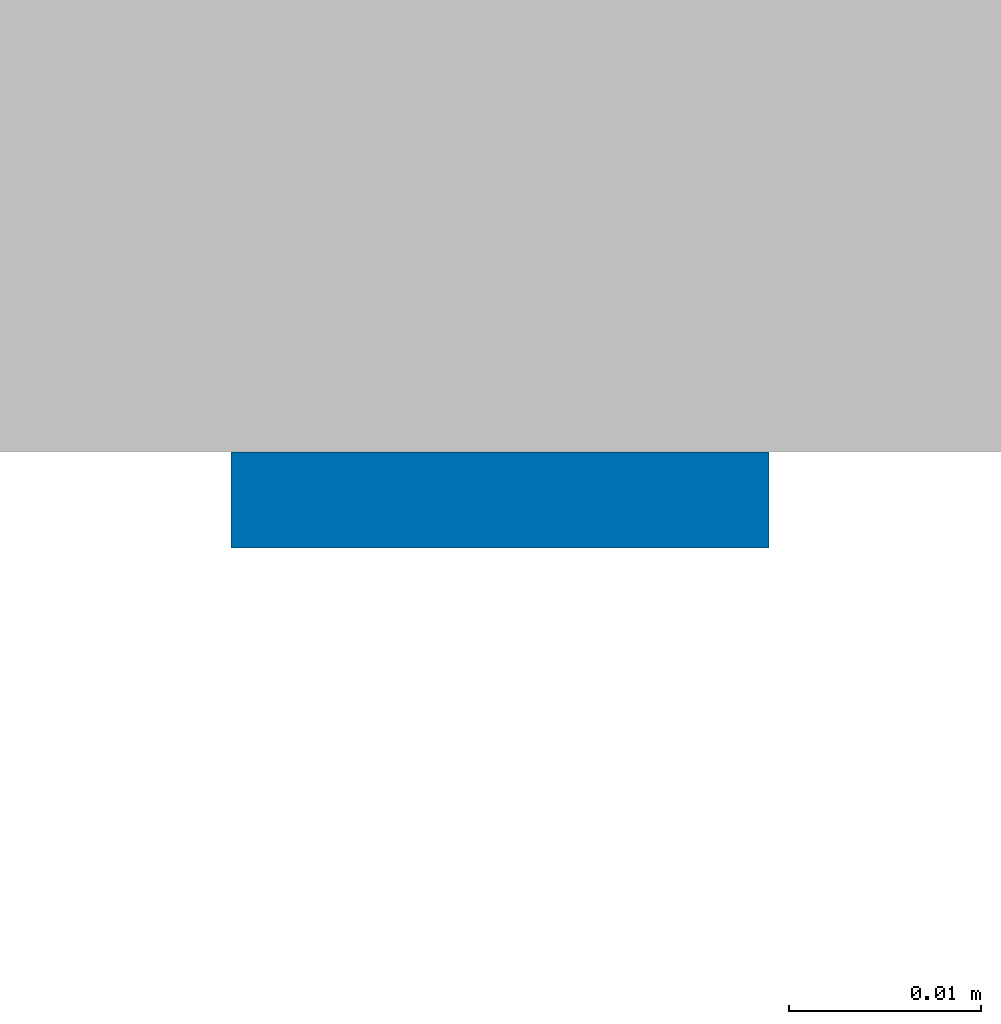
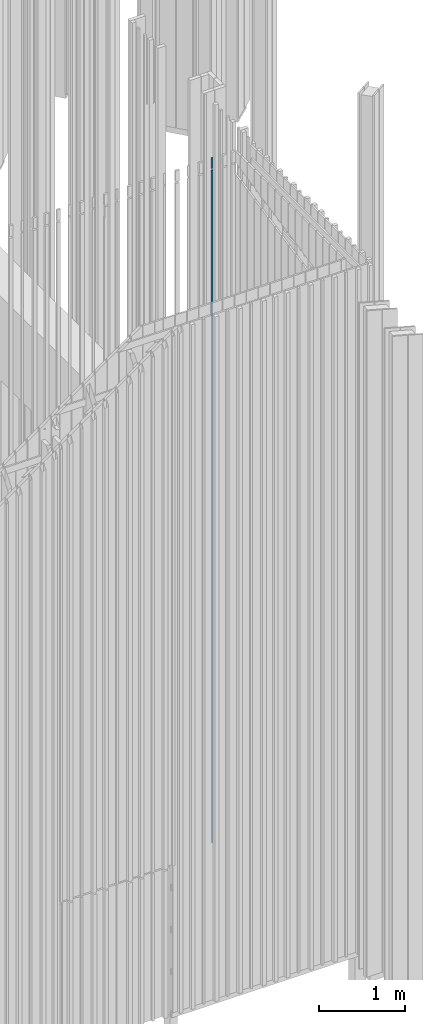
# One storey, part 175 of 390: 1 wall.
"""IFC2X3 building model written with IfcOpenShell, lengths in millimetres."""

from ifc_helpers import new_model, entity, si_unit, converted_unit, derived_unit, money_unit, direction, frame, origin_with_axes, place, context, subcontext, project, spatial, faceted_brep, material, material_list, type_object, element, save


model = new_model("IFC2X3")

# Units and contexts
model_context = context("Model", 3, precision=1e-05, world=origin_with_axes(), true_north=direction((0.0, 1.0)))
body_context = subcontext(model_context, "Body", "Model", "MODEL_VIEW")
ifc_project = project(units=[si_unit("LENGTHUNIT", "METRE", prefix="MILLI"), si_unit("AREAUNIT", "SQUARE_METRE"), si_unit("VOLUMEUNIT", "CUBIC_METRE"), converted_unit("PLANEANGLEUNIT", "DEGREE", entity("IfcPlaneAngleMeasure", 0.0174532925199), si_unit("PLANEANGLEUNIT", "RADIAN"), dimensions=[0, 0, 0, 0, 0, 0, 0]), si_unit("SOLIDANGLEUNIT", "STERADIAN"), money_unit("EUR"), converted_unit("TIMEUNIT", "Year", entity("IfcTimeMeasure", 31556926.0), si_unit("TIMEUNIT", "SECOND"), dimensions=[0, 0, 1, 0, 0, 0, 0]), si_unit("MASSUNIT", "GRAM", prefix="KILO"), si_unit("THERMODYNAMICTEMPERATUREUNIT", "DEGREE_CELSIUS"), si_unit("LUMINOUSINTENSITYUNIT", "LUMEN"), si_unit("ENERGYUNIT", "JOULE", prefix="MEGA"), derived_unit("THERMALCONDUCTANCEUNIT", [(si_unit("POWERUNIT", "WATT"), 1), (si_unit("LENGTHUNIT", "METRE"), -1), (si_unit("THERMODYNAMICTEMPERATUREUNIT", "KELVIN"), -1)]), derived_unit("SPECIFICHEATCAPACITYUNIT", [(si_unit("ENERGYUNIT", "JOULE"), 1), (si_unit("MASSUNIT", "GRAM", prefix="KILO"), -1), (si_unit("THERMODYNAMICTEMPERATUREUNIT", "KELVIN"), -1)]), derived_unit("MASSDENSITYUNIT", [(si_unit("MASSUNIT", "GRAM", prefix="KILO"), 1), (si_unit("VOLUMEUNIT", "CUBIC_METRE"), -1)])], contexts=[model_context])

# Site, building, storey
site_placement = place(None, origin_with_axes())
site = spatial("IfcSite", under=ifc_project, at=site_placement, Name="Site", CompositionType="ELEMENT")
building_placement = place(site_placement, origin_with_axes())
building = spatial("IfcBuilding", under=site, at=building_placement, Name="Building", CompositionType="ELEMENT")
storey_placement = place(building_placement, origin_with_axes())
storey = spatial("IfcBuildingStorey", under=building, at=storey_placement, Name="1 korrus", CompositionType="ELEMENT", Elevation=0.0)

# Wall
ifc_material = material(Name="Site specified")
ifc_material_list = material_list([ifc_material, ifc_material])
wall_type = type_object("IfcWallType", Name="Puitfassaadi ribistik", PredefinedType="NOTDEFINED")
wall_placement = place(storey_placement, frame((139224.000037, 45271.9999667, 100.000000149), z_axis=(0.0, 0.0, 1.0), x_axis=(-1.0, 0.0, 0.0)))
element("IfcWall", 1, at=wall_placement, inside=storey, type_object=wall_type, material=ifc_material_list, Name="Site specified", context=body_context, shape_type="Brep", body=[
    faceted_brep([(14.0, 9.00005463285, -3.12924797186e-06), (14.0, 8.99995831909, 9591.91725957), (-14.0, 8.99995831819, 9591.91725957), (-14.0, 9.00005463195, -3.12924797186e-06), (14.0, 14.0, 0.0), (14.0, 14.0, 9590.8544679), (-14.0, 14.0, 9590.8544679), (-14.0, 14.0, 0.0)], [[[0, 1, 2, 3]], [[4, 5, 1, 0]], [[5, 6, 2, 1]], [[3, 2, 6, 7]], [[0, 3, 7, 4]], [[7, 6, 5, 4]]]),
    faceted_brep([(-14.0, 14.0, 9764.99999985), (-14.0, 14.0, 9612.3236204), (-14.0, 8.99995831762, 9613.38641206), (-14.0, 8.99995831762, 9764.99999985), (14.0, 14.0, 9764.99999985), (14.0, 14.0, 9612.3236204), (14.0, 8.99995831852, 9613.38641206), (14.0, 8.99995831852, 9764.99999985)], [[[0, 1, 2, 3]], [[4, 5, 1, 0]], [[5, 6, 2, 1]], [[3, 2, 6, 7]], [[3, 7, 4, 0]], [[7, 6, 5, 4]]]),
])

save(model, "model.ifc")
